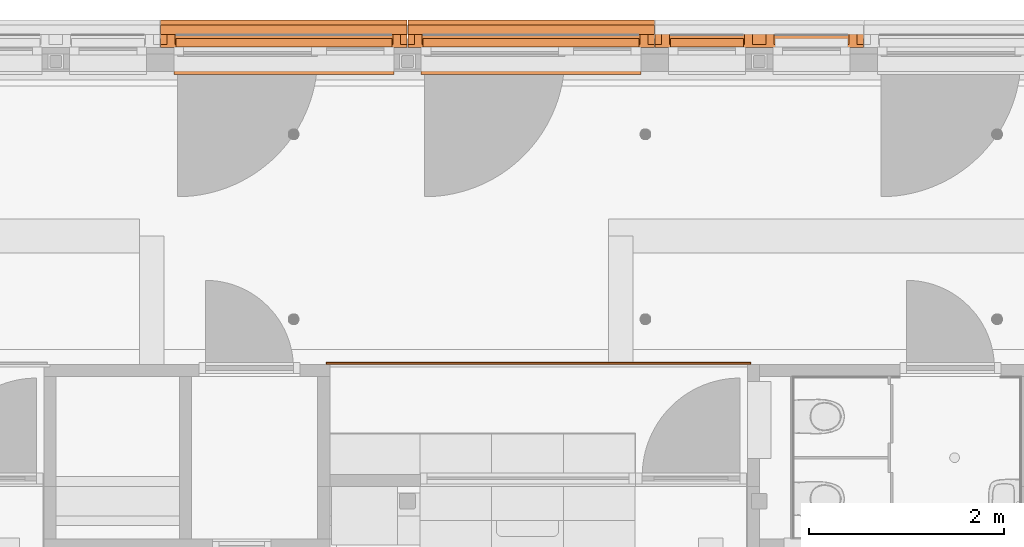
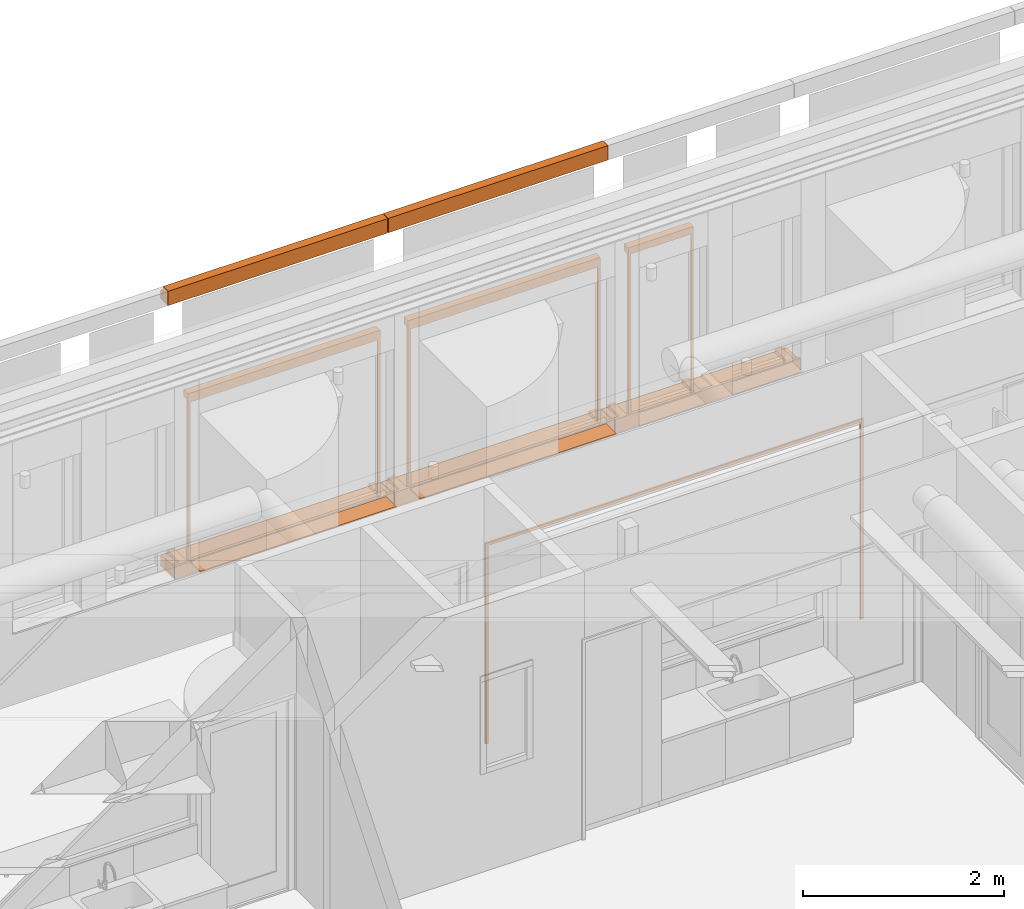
# One storey, part 117 of 128: 11 proxies.
"""IFC2X3 building model written with IfcOpenShell, lengths in millimetres."""

from ifc_helpers import new_model, entity, si_unit, converted_unit, derived_unit, direction, frame, frame_2d, origin, origin_2d_with_axis, place, context, subcontext, project, spatial, polyline, circle_curve, parameter, trimmed, segment, composite_curve, rectangle, outline, extrude, source, transform, mapped, material, material_list, type_object, type_shapes, element, save


model = new_model("IFC2X3")

# Units and contexts
model_context = context("Model", 3, precision=0.01, world=origin(), true_north=direction((6.123031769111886e-17, 1.0)))
body_context = subcontext(model_context, "Body", "Model", "MODEL_VIEW")
ifc_project = project(units=[si_unit("LENGTHUNIT", "METRE", prefix="MILLI"), si_unit("AREAUNIT", "SQUARE_METRE"), si_unit("VOLUMEUNIT", "CUBIC_METRE"), converted_unit("PLANEANGLEUNIT", "DEGREE", entity("IfcRatioMeasure", 0.017453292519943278), si_unit("PLANEANGLEUNIT", "RADIAN"), dimensions=[0, 0, 0, 0, 0, 0, 0]), si_unit("MASSUNIT", "GRAM", prefix="KILO"), derived_unit("MASSDENSITYUNIT", [(si_unit("MASSUNIT", "GRAM", prefix="KILO"), 1), (si_unit("LENGTHUNIT", "METRE"), -3)]), derived_unit("IONCONCENTRATIONUNIT", [(si_unit("MASSUNIT", "GRAM", prefix="KILO"), 1), (si_unit("LENGTHUNIT", "METRE"), -3)]), derived_unit("MOMENTOFINERTIAUNIT", [(si_unit("LENGTHUNIT", "METRE"), 4)]), si_unit("TIMEUNIT", "SECOND"), si_unit("FREQUENCYUNIT", "HERTZ"), si_unit("THERMODYNAMICTEMPERATUREUNIT", "DEGREE_CELSIUS"), derived_unit("THERMALTRANSMITTANCEUNIT", [(si_unit("MASSUNIT", "GRAM", prefix="KILO"), 1), (si_unit("THERMODYNAMICTEMPERATUREUNIT", "KELVIN"), -1), (si_unit("TIMEUNIT", "SECOND"), -3)]), derived_unit("THERMALCONDUCTANCEUNIT", [(si_unit("MASSUNIT", "GRAM", prefix="KILO"), 1), (si_unit("THERMODYNAMICTEMPERATUREUNIT", "KELVIN"), -1), (si_unit("TIMEUNIT", "SECOND"), -3), (si_unit("LENGTHUNIT", "METRE"), 1)]), derived_unit("VOLUMETRICFLOWRATEUNIT", [(si_unit("LENGTHUNIT", "METRE"), 3), (si_unit("TIMEUNIT", "SECOND"), -1)]), derived_unit("MASSFLOWRATEUNIT", [(si_unit("MASSUNIT", "GRAM", prefix="KILO"), 1), (si_unit("TIMEUNIT", "SECOND"), -1)]), derived_unit("ROTATIONALFREQUENCYUNIT", [(si_unit("TIMEUNIT", "SECOND"), -1)]), si_unit("ELECTRICCURRENTUNIT", "AMPERE"), si_unit("ELECTRICVOLTAGEUNIT", "VOLT"), si_unit("POWERUNIT", "WATT"), si_unit("FORCEUNIT", "NEWTON", prefix="KILO"), si_unit("ILLUMINANCEUNIT", "LUX"), si_unit("LUMINOUSFLUXUNIT", "LUMEN"), si_unit("LUMINOUSINTENSITYUNIT", "CANDELA"), derived_unit("USERDEFINED", [(si_unit("MASSUNIT", "GRAM", prefix="KILO"), -1), (si_unit("LENGTHUNIT", "METRE"), -2), (si_unit("TIMEUNIT", "SECOND"), 3), (si_unit("LUMINOUSFLUXUNIT", "LUMEN"), 1)]), derived_unit("USERDEFINED", [(si_unit("MASSUNIT", "GRAM", prefix="KILO"), 1), (si_unit("TIMEUNIT", "SECOND"), -3), (si_unit("LENGTHUNIT", "METRE"), 3), (si_unit("ELECTRICCURRENTUNIT", "AMPERE"), -2)]), derived_unit("SOUNDPOWERUNIT", [(si_unit("MASSUNIT", "GRAM", prefix="KILO"), 1), (si_unit("TIMEUNIT", "SECOND"), -3), (si_unit("LENGTHUNIT", "METRE"), 2)]), derived_unit("SOUNDPRESSUREUNIT", [(si_unit("MASSUNIT", "GRAM", prefix="KILO"), 1), (si_unit("LENGTHUNIT", "METRE"), -1), (si_unit("TIMEUNIT", "SECOND"), -2)]), derived_unit("LINEARVELOCITYUNIT", [(si_unit("LENGTHUNIT", "METRE"), 1), (si_unit("TIMEUNIT", "SECOND"), -1)]), si_unit("PRESSUREUNIT", "PASCAL"), derived_unit("USERDEFINED", [(si_unit("MASSUNIT", "GRAM", prefix="KILO"), 1), (si_unit("LENGTHUNIT", "METRE"), -2), (si_unit("TIMEUNIT", "SECOND"), -2)]), derived_unit("LINEARFORCEUNIT", [(si_unit("MASSUNIT", "GRAM", prefix="KILO"), 1), (si_unit("TIMEUNIT", "SECOND"), -2)]), derived_unit("PLANARFORCEUNIT", [(si_unit("MASSUNIT", "GRAM", prefix="KILO"), 1), (si_unit("LENGTHUNIT", "METRE"), -1), (si_unit("TIMEUNIT", "SECOND"), -2)]), derived_unit("SPECIFICHEATCAPACITYUNIT", [(si_unit("THERMODYNAMICTEMPERATUREUNIT", "KELVIN"), -1), (si_unit("LENGTHUNIT", "METRE"), 2), (si_unit("TIMEUNIT", "SECOND"), -2)]), derived_unit("HEATINGVALUEUNIT", [(si_unit("LENGTHUNIT", "METRE"), 2), (si_unit("TIMEUNIT", "SECOND"), -2)]), derived_unit("VAPORPERMEABILITYUNIT", [(si_unit("LENGTHUNIT", "METRE"), -1), (si_unit("TIMEUNIT", "SECOND"), 1)]), derived_unit("DYNAMICVISCOSITYUNIT", [(si_unit("MASSUNIT", "GRAM", prefix="KILO"), 1), (si_unit("TIMEUNIT", "SECOND"), -1), (si_unit("LENGTHUNIT", "METRE"), -1)]), derived_unit("THERMALEXPANSIONCOEFFICIENTUNIT", [(si_unit("THERMODYNAMICTEMPERATUREUNIT", "KELVIN"), -1)]), derived_unit("MODULUSOFELASTICITYUNIT", [(si_unit("MASSUNIT", "GRAM", prefix="KILO"), 1), (si_unit("LENGTHUNIT", "METRE"), -1), (si_unit("TIMEUNIT", "SECOND"), -2)]), derived_unit("ISOTHERMALMOISTURECAPACITYUNIT", [(si_unit("LENGTHUNIT", "METRE"), 3), (si_unit("MASSUNIT", "GRAM", prefix="KILO"), -1)]), derived_unit("MOISTUREDIFFUSIVITYUNIT", [(si_unit("TIMEUNIT", "SECOND"), -1), (si_unit("LENGTHUNIT", "METRE"), 2)])], contexts=[model_context])

# Site, building, storey
site_placement = place(None, frame((0.0, 300.0, 0.0)))
site = spatial("IfcSite", under=ifc_project, at=site_placement, Name="<Kadastrale nummers>", CompositionType="ELEMENT")
building_placement = place(site_placement, origin())
building = spatial("IfcBuilding", under=site, at=building_placement, CompositionType="ELEMENT")
storey_placement = place(building_placement, frame((0.0, 0.0, 3560.0000331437)))
storey = spatial("IfcBuildingStorey", under=building, at=storey_placement, Name="01 eerste verdieping", CompositionType="ELEMENT", Elevation=3560.0000331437)

# Proxies
ifc_material_1 = material(Name="ISR_Beton_prefab")
building_element_proxy_type_1 = type_object("IfcBuildingElementProxyType", Name="29_DAT_Prefab betonnen waterslag lang:22", PredefinedType="NOTDEFINED", material=ifc_material_1)
shared_shape_1 = source(origin(), body_context, "Body", "SweptSolid", [
    extrude(outline(polyline([(-16.052237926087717, -115.0), (26.113434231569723, -115.0), (5.9910416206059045, 115.0), (-16.052237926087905, 115.0), (-16.052237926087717, -115.0)])), frame((2377.0, 75.0, -16.05223792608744), z_axis=(1.0, 0.0, 0.0), x_axis=(0.0, 0.0, -1.0)), (0.0, 0.0, 1.0), 79.99999999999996),
    extrude(outline(polyline([(-16.052237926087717, -115.0), (26.113434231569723, -115.0), (5.9910416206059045, 115.0), (-16.052237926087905, 115.0), (-16.052237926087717, -115.0)])), frame((67.0, 75.0, -16.05223792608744), z_axis=(1.0, 0.0, 0.0), x_axis=(0.0, 0.0, -1.0)), (0.0, 0.0, 1.0), 80.00000000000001),
    extrude(outline(composite_curve([segment(polyline([(-140.0, -95.7340207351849), (-110.0, -95.7340207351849)]), True, "CONTINUOUS"), segment(polyline([(-110.0, -95.7340207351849), (-110.0, -73.7340207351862)]), True, "CONTINUOUS"), segment(polyline([(-110.0, -73.7340207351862), (140.0, -51.861854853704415)]), True, "CONTINUOUS"), segment(polyline([(140.0, -51.86185485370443), (140.0, 79.26597926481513)]), True, "CONTINUOUS"), segment(polyline([(140.0, 79.26597926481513), (115.0, 79.26597926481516)]), True, "CONTINUOUS"), segment(trimmed(circle_curve(frame_2d((110.0, 79.26597926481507), x_axis=(1.0, 0.0)), 5.000000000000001), [parameter(179.99999999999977)], [parameter(4.0711099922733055e-13)], True, "PARAMETER"), False, "CONTINUOUS"), segment(polyline([(105.0, 79.26597926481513), (-140.0, 79.26597926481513)]), True, "CONTINUOUS"), segment(polyline([(-140.0, 79.26597926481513), (-140.0, -95.7340207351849)]), True, "CONTINUOUS")], self_intersect=False)), frame((0.0, 80.0, -95.73402073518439), z_axis=(1.0, 0.0, 0.0), x_axis=(0.0, -1.0, 0.0)), (0.0, 0.0, 1.0), 2524.0000000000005),
])
type_shapes(building_element_proxy_type_1, [shared_shape_1])
for number, where, z_axis, x_axis, name in (
    (1, (23527.0, 50165.0, 890.0000018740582), (0.0, 0.0, 1.0), (-1.0, 0.0, 0.0), "29_DAT_Prefab betonnen waterslag lang:22"),
    (2, (20997.0, 50165.0, 890.0000018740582), (0.0, 0.0, 1.0), (-1.0, 0.0, 0.0), "29_DAT_Prefab betonnen waterslag lang:22"),
):
    element("IfcBuildingElementProxy", number, at=place(storey_placement, frame(where, z_axis=z_axis, x_axis=x_axis)), inside=storey, type_object=building_element_proxy_type_1, material=ifc_material_1, Name=name, ObjectType="29_DAT_Prefab betonnen waterslag lang:22", context=body_context, shape_type="MappedRepresentation", body=[
        mapped(shared_shape_1, transform((0.0, 0.0, 0.0), scale=1.0)),
    ])
ifc_material_2 = material(Name="STAAL_RAL 7006")
ifc_material_3 = material(Name="<Unnamed>")
ifc_material_list = material_list([ifc_material_2, ifc_material_3])
building_element_proxy_type_2 = type_object("IfcBuildingElementProxyType", Name="31_DAT_Screen_zonwering_bak85:31_DAT_Screen_zonwering_bak85", PredefinedType="NOTDEFINED", material=ifc_material_list)
shared_shape_2 = source(origin(), body_context, "Body", "SweptSolid", [
    extrude(outline(polyline([(-60.69864841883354, -53.573897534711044), (20.695945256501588, -53.573897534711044), (20.695945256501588, 1.1216926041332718), (22.501351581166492, 1.1216926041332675), (22.501351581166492, 24.626102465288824), (17.501351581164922, 24.626102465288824), (17.501351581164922, 27.826102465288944), (-60.69864841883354, 27.826102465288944), (-60.69864841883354, -53.573897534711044)])), frame((2208.0, -29.62610246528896, 2752.501351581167), z_axis=(1.0, 0.0, 0.0), x_axis=(0.0, 0.0, -1.0)), (0.0, 0.0, 1.0), 1.999999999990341),
    extrude(outline(polyline([(-55.83243227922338, -51.08259835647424), (29.167567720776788, -51.08259835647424), (29.167567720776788, 5.412991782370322), (27.362161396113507, 5.412991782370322), (27.362161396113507, -49.28259835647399), (-54.032432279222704, -49.28259835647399), (-54.032432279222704, 32.117401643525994), (24.16756772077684, 32.117401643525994), (24.16756772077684, 28.91740164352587), (29.167567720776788, 28.91740164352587), (29.167567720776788, 33.917401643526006), (-55.83243227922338, 33.917401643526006), (-55.83243227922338, -51.08259835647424)])), frame((0.0, -33.917401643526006, 2759.1675677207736), z_axis=(1.0, 0.0, 0.0), x_axis=(0.0, 0.0, -1.0)), (0.0, 0.0, 1.0), 2210.000000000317),
    extrude(outline(polyline([(-60.69864841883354, -53.573897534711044), (20.695945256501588, -53.573897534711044), (20.695945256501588, 1.1216926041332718), (22.501351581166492, 1.1216926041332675), (22.501351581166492, 24.626102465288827), (17.501351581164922, 24.626102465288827), (17.501351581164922, 27.826102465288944), (-60.69864841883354, 27.826102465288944), (-60.69864841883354, -53.573897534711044)])), frame((0.0, -29.62610246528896, 2752.501351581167), z_axis=(1.0, 0.0, 0.0), x_axis=(0.0, 0.0, -1.0)), (0.0, 0.0, 1.0), 1.999999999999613),
    extrude(rectangle(XDim=2170.0000000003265, YDim=1.163311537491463, at=frame_2d((1.1368683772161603e-13, -2.1094237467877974e-15), x_axis=(1.0, 0.0))), frame((1105.0, -20.037293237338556, 2723.857769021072)), (0.0, 0.0, 1.0), 6.142230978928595),
    extrude(outline(composite_curve([segment(polyline([(-7.502327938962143, -23.023758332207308), (7.497672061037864, -23.023758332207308)]), True, "CONTINUOUS"), segment(trimmed(circle_curve(frame_2d((7.497672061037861, -21.523758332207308), x_axis=(0.0, -1.0)), 1.4999999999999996), [parameter(359.99999999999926)], [parameter(90.00000000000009)], True, "PARAMETER"), True, "CONTINUOUS"), segment(polyline([(8.997672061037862, -21.523758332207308), (8.997672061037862, 8.976241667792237)]), True, "CONTINUOUS"), segment(trimmed(circle_curve(frame_2d((5.99767206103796, 8.976241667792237), x_axis=(0.0, -1.0)), 3.0), [parameter(90.00000000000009)], [parameter(172.84454900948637)], True, "PARAMETER"), True, "CONTINUOUS"), segment(polyline([(6.371357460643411, 11.952877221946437), (2.232090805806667, 12.470504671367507)]), True, "CONTINUOUS"), segment(trimmed(circle_curve(frame_2d((2.1399803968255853, 11.733933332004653), x_axis=(0.0, -1.0)), 0.7423083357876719), [parameter(172.87199730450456)], [parameter(323.5235343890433)], True, "PARAMETER"), True, "CONTINUOUS"), segment(trimmed(circle_curve(frame_2d((-0.0023279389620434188, 8.976241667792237), x_axis=(0.0, -1.0)), 2.75), [parameter(217.47327986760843)], [parameter(141.78969998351)], True, "PARAMETER"), False, "CONTINUOUS"), segment(trimmed(circle_curve(frame_2d((-2.144636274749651, 11.733933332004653), x_axis=(0.0, -1.0)), 0.7423083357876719), [parameter(39.207114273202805)], [parameter(187.12800269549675)], True, "PARAMETER"), True, "CONTINUOUS"), segment(polyline([(-2.2367466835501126, 12.470504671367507), (-6.376013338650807, 11.952877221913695)]), True, "CONTINUOUS"), segment(trimmed(circle_curve(frame_2d((-6.002327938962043, 8.976241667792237), x_axis=(0.0, -1.0)), 3.0), [parameter(187.1554509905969)], [parameter(269.9999999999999)], True, "PARAMETER"), True, "CONTINUOUS"), segment(polyline([(-9.002327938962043, 8.976241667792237), (-9.002327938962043, -21.523758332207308)]), True, "CONTINUOUS"), segment(trimmed(circle_curve(frame_2d((-7.502327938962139, -21.523758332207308), x_axis=(0.0, -1.0)), 1.5000000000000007), [parameter(269.9999999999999)], [parameter(359.9999999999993)], True, "PARAMETER"), True, "CONTINUOUS")], self_intersect=False)), frame((20.0, -19.997672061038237, 2716.8815273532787), z_axis=(1.0, 0.0, 0.0), x_axis=(0.0, 1.0, 0.0)), (0.0, 0.0, 1.0), 2170.0000000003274),
    extrude(outline(polyline([(-14.638298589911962, -16.231574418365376), (-13.138298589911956, -16.231574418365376), (-13.138298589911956, 12.23272922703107), (-6.116685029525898, 12.23272922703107), (-6.116685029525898, -6.231574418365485), (-1.1166850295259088, -6.231574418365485), (-1.1166850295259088, -4.769580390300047), (-4.579546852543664, -4.769580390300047), (-4.579546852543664, 12.23272922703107), (13.866111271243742, 12.23272922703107), (13.866111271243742, -4.769580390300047), (10.361701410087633, -4.769580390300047), (10.361701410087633, -6.2315744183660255), (15.36170141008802, -6.2315744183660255), (15.36170141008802, 13.768425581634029), (-14.638298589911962, 13.768425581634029), (-14.638298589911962, -16.231574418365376)])), frame((2196.231574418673, -14.638298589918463, 800.0), z_axis=(0.0, 0.0, 1.0), x_axis=(0.0, -1.0, 0.0)), (0.0, 0.0, 1.0), 1930.000000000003),
    extrude(outline(polyline([(-16.231574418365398, -14.638298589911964), (13.768425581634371, -14.638298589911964), (13.76842558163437, 15.361701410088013), (-6.231574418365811, 15.361701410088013), (-6.231574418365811, 10.361701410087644), (-4.769580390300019, 10.361701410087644), (-4.769580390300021, 13.866111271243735), (12.2327292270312, 13.866111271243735), (12.2327292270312, -4.57954685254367), (-4.769580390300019, -4.57954685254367), (-4.769580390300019, -1.1166850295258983), (-6.231574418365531, -1.1166850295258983), (-6.231574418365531, -6.116685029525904), (12.232729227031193, -6.116685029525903), (12.232729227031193, -13.138298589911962), (-16.231574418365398, -13.138298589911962), (-16.231574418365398, -14.638298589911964)])), frame((13.768425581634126, -14.638298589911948, 800.0), z_axis=(0.0, 0.0, 1.0), x_axis=(-1.0, 0.0, 0.0)), (0.0, 0.0, 1.0), 1930.0000000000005),
])
type_shapes(building_element_proxy_type_2, [shared_shape_2])
for number, where, z_axis, x_axis, name in (
    (3, (23370.0, 49951.0, 100.00000187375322), (0.0, 0.0, 1.0), (-1.0, 0.0, 0.0), "31_DAT_Screen_zonwering_bak85:31_DAT_Screen_zonwering_bak85"),
    (4, (20840.0, 49951.0, 100.00000187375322), (0.0, 0.0, 1.0), (-1.0, 0.0, 0.0), "31_DAT_Screen_zonwering_bak85:31_DAT_Screen_zonwering_bak85"),
):
    element("IfcBuildingElementProxy", number, at=place(storey_placement, frame(where, z_axis=z_axis, x_axis=x_axis)), inside=storey, type_object=building_element_proxy_type_2, material=ifc_material_list, Name=name, ObjectType="31_DAT_Screen_zonwering_bak85:31_DAT_Screen_zonwering_bak85", context=body_context, shape_type="MappedRepresentation", body=[
        mapped(shared_shape_2, transform((0.0, 0.0, 0.0), scale=1.0)),
    ])
building_element_proxy_type_3 = type_object("IfcBuildingElementProxyType", Name="29_DAT_Prefab betonband afgeschuind:29_DAT_Prefab betonband afgeschuind", PredefinedType="NOTDEFINED", material=ifc_material_1)
shared_shape_3 = source(origin(), body_context, "Body", "SweptSolid", [
    extrude(outline(polyline([(-94.16666666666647, -83.33333333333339), (80.83333333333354, -83.33333333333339), (80.83333333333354, 16.66666666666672), (18.33333333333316, 16.666666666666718), (8.333333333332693, 66.66666666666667), (-94.16666666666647, 66.66666666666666), (-94.16666666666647, -83.33333333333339)])), frame((0.0, 16.66666666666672, -18.33333333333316), z_axis=(1.0, 0.0, 0.0), x_axis=(0.0, 0.0, 1.0)), (0.0, 0.0, 1.0), 2524.0000000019),
])
type_shapes(building_element_proxy_type_3, [shared_shape_3])
for number, where, z_axis, x_axis, name in (
    (5, (23527.0, 50175.0, 4077.4999668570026), (0.0, 0.0, 1.0), (-1.0, 0.0, 0.0), "29_DAT_Prefab betonband afgeschuind:29_DAT_Prefab betonband afgeschuind"),
    (6, (20997.0, 50175.0, 4077.4999668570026), (0.0, 0.0, 1.0), (-1.0, 0.0, 0.0), "29_DAT_Prefab betonband afgeschuind:29_DAT_Prefab betonband afgeschuind"),
):
    element("IfcBuildingElementProxy", number, at=place(storey_placement, frame(where, z_axis=z_axis, x_axis=x_axis)), inside=storey, type_object=building_element_proxy_type_3, material=ifc_material_1, Name=name, ObjectType="29_DAT_Prefab betonband afgeschuind:29_DAT_Prefab betonband afgeschuind", context=body_context, shape_type="MappedRepresentation", body=[
        mapped(shared_shape_3, transform((0.0, 0.0, 0.0), scale=1.0)),
    ])
building_element_proxy_type_4 = type_object("IfcBuildingElementProxyType", Name="31_DAT_Screen_zonwering_bak85:31_DAT_Screen_zonwering_bak85", PredefinedType="NOTDEFINED", material=ifc_material_list)
shared_shape_4 = source(origin(), body_context, "Body", "SweptSolid", [
    extrude(outline(polyline([(-60.69864841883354, -53.573897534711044), (20.695945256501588, -53.573897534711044), (20.695945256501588, 1.1216926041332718), (22.501351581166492, 1.1216926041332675), (22.501351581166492, 24.626102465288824), (17.501351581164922, 24.626102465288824), (17.501351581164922, 27.826102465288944), (-60.69864841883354, 27.826102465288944), (-60.69864841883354, -53.573897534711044)])), frame((748.0, -29.62610246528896, 2752.501351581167), z_axis=(1.0, 0.0, 0.0), x_axis=(0.0, 0.0, -1.0)), (0.0, 0.0, 1.0), 1.9999999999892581),
    extrude(outline(polyline([(-55.83243227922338, -51.08259835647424), (29.167567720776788, -51.08259835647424), (29.167567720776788, 5.412991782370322), (27.362161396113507, 5.412991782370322), (27.362161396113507, -49.28259835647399), (-54.032432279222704, -49.28259835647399), (-54.032432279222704, 32.117401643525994), (24.16756772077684, 32.117401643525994), (24.16756772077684, 28.91740164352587), (29.167567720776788, 28.91740164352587), (29.167567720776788, 33.917401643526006), (-55.83243227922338, 33.917401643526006), (-55.83243227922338, -51.08259835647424)])), frame((0.0, -33.917401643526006, 2759.1675677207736), z_axis=(1.0, 0.0, 0.0), x_axis=(0.0, 0.0, -1.0)), (0.0, 0.0, 1.0), 749.9999999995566),
    extrude(outline(polyline([(-60.69864841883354, -53.573897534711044), (20.695945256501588, -53.573897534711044), (20.695945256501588, 1.1216926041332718), (22.501351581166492, 1.1216926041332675), (22.501351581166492, 24.626102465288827), (17.501351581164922, 24.626102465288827), (17.501351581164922, 27.826102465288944), (-60.69864841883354, 27.826102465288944), (-60.69864841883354, -53.573897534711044)])), frame((0.0, -29.62610246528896, 2752.501351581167), z_axis=(1.0, 0.0, 0.0), x_axis=(0.0, 0.0, -1.0)), (0.0, 0.0, 1.0), 1.999999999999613),
    extrude(rectangle(XDim=709.9999999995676, YDim=1.163311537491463, at=frame_2d((0.0, -2.1094237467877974e-15), x_axis=(1.0, 0.0))), frame((375.0, -20.037293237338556, 2730.0)), (0.0, 0.0, 1.0), 61.996041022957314),
    extrude(outline(composite_curve([segment(polyline([(-7.502327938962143, -23.023758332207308), (7.497672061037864, -23.023758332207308)]), True, "CONTINUOUS"), segment(trimmed(circle_curve(frame_2d((7.497672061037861, -21.523758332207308), x_axis=(0.0, -1.0)), 1.4999999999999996), [parameter(359.99999999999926)], [parameter(90.00000000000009)], True, "PARAMETER"), True, "CONTINUOUS"), segment(polyline([(8.997672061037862, -21.523758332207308), (8.997672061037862, 8.976241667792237)]), True, "CONTINUOUS"), segment(trimmed(circle_curve(frame_2d((5.99767206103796, 8.976241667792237), x_axis=(0.0, -1.0)), 3.0), [parameter(90.00000000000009)], [parameter(172.84454900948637)], True, "PARAMETER"), True, "CONTINUOUS"), segment(polyline([(6.371357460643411, 11.952877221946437), (2.232090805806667, 12.470504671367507)]), True, "CONTINUOUS"), segment(trimmed(circle_curve(frame_2d((2.1399803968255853, 11.733933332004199), x_axis=(0.0, -1.0)), 0.7423083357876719), [parameter(172.87199730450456)], [parameter(323.5235343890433)], True, "PARAMETER"), True, "CONTINUOUS"), segment(trimmed(circle_curve(frame_2d((-0.0023279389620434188, 8.976241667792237), x_axis=(0.0, -1.0)), 2.75), [parameter(217.47327986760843)], [parameter(141.78969998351)], True, "PARAMETER"), False, "CONTINUOUS"), segment(trimmed(circle_curve(frame_2d((-2.144636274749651, 11.733933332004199), x_axis=(0.0, -1.0)), 0.7423083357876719), [parameter(39.207114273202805)], [parameter(187.12800269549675)], True, "PARAMETER"), True, "CONTINUOUS"), segment(polyline([(-2.2367466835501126, 12.470504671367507), (-6.376013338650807, 11.95287722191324)]), True, "CONTINUOUS"), segment(trimmed(circle_curve(frame_2d((-6.002327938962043, 8.976241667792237), x_axis=(0.0, -1.0)), 3.0), [parameter(187.1554509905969)], [parameter(269.9999999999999)], True, "PARAMETER"), True, "CONTINUOUS"), segment(polyline([(-9.002327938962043, 8.976241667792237), (-9.002327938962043, -21.523758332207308)]), True, "CONTINUOUS"), segment(trimmed(circle_curve(frame_2d((-7.502327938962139, -21.523758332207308), x_axis=(0.0, -1.0)), 1.5000000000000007), [parameter(269.9999999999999)], [parameter(359.9999999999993)], True, "PARAMETER"), True, "CONTINUOUS")], self_intersect=False)), frame((20.0, -19.997672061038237, 2785.0197993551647), z_axis=(1.0, 0.0, 0.0), x_axis=(0.0, 1.0, 0.0)), (0.0, 0.0, 1.0), 709.9999999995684),
    extrude(outline(polyline([(-14.638298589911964, -16.231574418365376), (-13.138298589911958, -16.231574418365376), (-13.138298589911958, 12.232729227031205), (-6.116685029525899, 12.232729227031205), (-6.116685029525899, -6.231574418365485), (-1.116685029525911, -6.231574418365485), (-1.116685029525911, -4.769580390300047), (-4.579546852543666, -4.769580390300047), (-4.579546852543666, 12.23272922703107), (13.86611127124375, 12.23272922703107), (13.86611127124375, -4.769580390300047), (10.36170141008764, -4.769580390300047), (10.36170141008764, -6.2315744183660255), (15.36170141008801, -6.2315744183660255), (15.36170141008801, 13.768425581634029), (-14.638298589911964, 13.768425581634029), (-14.638298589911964, -16.231574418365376)])), frame((736.2315744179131, -14.638298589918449, 800.0), z_axis=(0.0, 0.0, 1.0), x_axis=(0.0, -1.0, 0.0)), (0.0, 0.0, 1.0), 1930.000000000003),
    extrude(outline(polyline([(-16.231574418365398, -14.638298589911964), (13.768425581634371, -14.638298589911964), (13.76842558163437, 15.361701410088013), (-6.231574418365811, 15.361701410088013), (-6.231574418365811, 10.361701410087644), (-4.769580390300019, 10.361701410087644), (-4.769580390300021, 13.866111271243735), (12.2327292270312, 13.866111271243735), (12.2327292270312, -4.57954685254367), (-4.769580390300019, -4.57954685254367), (-4.769580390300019, -1.1166850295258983), (-6.231574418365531, -1.1166850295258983), (-6.231574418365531, -6.116685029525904), (12.232729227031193, -6.116685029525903), (12.232729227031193, -13.138298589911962), (-16.231574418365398, -13.138298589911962), (-16.231574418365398, -14.638298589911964)])), frame((13.768425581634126, -14.638298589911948, 800.0), z_axis=(0.0, 0.0, 1.0), x_axis=(-1.0, 0.0, 0.0)), (0.0, 0.0, 1.0), 1930.0000000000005),
])
type_shapes(building_element_proxy_type_4, [shared_shape_4])
proxy_1_placement = place(storey_placement, frame((24440.0, 49951.0, 100.00000187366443), z_axis=(0.0, 0.0, 1.0), x_axis=(-1.0, 0.0, 0.0)))
element("IfcBuildingElementProxy", 7, at=proxy_1_placement, inside=storey, type_object=building_element_proxy_type_4, material=ifc_material_list, Name="31_DAT_Screen_zonwering_bak85:31_DAT_Screen_zonwering_bak85", ObjectType="31_DAT_Screen_zonwering_bak85:31_DAT_Screen_zonwering_bak85", context=body_context, shape_type="MappedRepresentation", body=[
    mapped(shared_shape_4, transform((0.0, 0.0, 0.0), scale=1.0)),
])

# Space
space_placement = place(storey_placement, origin())
space = spatial("IfcSpace", under=storey, at=space_placement, Name="1.11", CompositionType="ELEMENT", InteriorOrExteriorSpace="INTERNAL")

# Proxies
ifc_material_4 = material(Name="e1_natuursteen")
building_element_proxy_type_5 = type_object("IfcBuildingElementProxyType", Name="NLRS_31_GM_WPB_vensterbank natuursteen -SH_gen_ASN:200x18", PredefinedType="USERDEFINED", material=ifc_material_4)
shared_shape_5 = source(origin(), body_context, "Body", "SweptSolid", [
    extrude(rectangle(XDim=200.0, YDim=2250.000000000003, at=origin_2d_with_axis()), frame((0.0, -100.0, 0.0), z_axis=(0.0, 0.0, 1.0), x_axis=(0.0, -1.0, 0.0)), (0.0, 0.0, 1.0), 17.999999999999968),
])
type_shapes(building_element_proxy_type_5, [shared_shape_5])
for number, where, z_axis, x_axis, name in (
    (8, (22265.0, 49668.0, 920.0000018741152), (0.0, 0.0, 1.0), (-1.0, 0.0, 0.0), "NLRS_31_GM_WPB_vensterbank natuursteen -SH_gen_ASN:200x18"),
    (9, (19735.0, 49668.0, 920.0000018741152), (0.0, 0.0, 1.0), (-1.0, 0.0, 0.0), "NLRS_31_GM_WPB_vensterbank natuursteen -SH_gen_ASN:200x18"),
):
    element("IfcBuildingElementProxy", number, at=place(space_placement, frame(where, z_axis=z_axis, x_axis=x_axis)), inside=space, type_object=building_element_proxy_type_5, material=ifc_material_4, Name=name, ObjectType="NLRS_31_GM_WPB_vensterbank natuursteen -SH_gen_ASN:200x18", context=body_context, shape_type="MappedRepresentation", body=[
        mapped(shared_shape_5, transform((0.0, 0.0, 0.0), scale=1.0)),
    ])
ifc_material_5 = material(Name="ISR_HPL Kleur hout")
building_element_proxy_type_6 = type_object("IfcBuildingElementProxyType", Name="82_DAT_Trimlat om element:82_DAT_Trimlat om element", PredefinedType="NOTDEFINED", material=ifc_material_5)
shared_shape_6 = source(origin(), body_context, "Body", "SweptSolid", [
    extrude(rectangle(XDim=19.999999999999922, YDim=34.99999999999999, at=origin_2d_with_axis()), frame((-17.500000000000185, -10.0, 0.0), z_axis=(0.0, 0.0, 1.0), x_axis=(0.0, 1.0, 0.0)), (0.0, 0.0, 1.0), 2400.000000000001),
    extrude(rectangle(XDim=20.000000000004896, YDim=34.99999999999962, at=frame_2d((0.0, -5.400124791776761e-13), x_axis=(1.0, 0.0))), frame((4292.49999999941, -10.0, 0.0), z_axis=(0.0, 0.0, 1.0), x_axis=(0.0, 1.0, 0.0)), (0.0, 0.0, 1.0), 2400.000000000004),
    extrude(rectangle(XDim=19.99999999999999, YDim=4344.999999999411, at=frame_2d((0.0, -2.2737367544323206e-13), x_axis=(1.0, 0.0))), frame((2137.499999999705, -10.0, 2400.0), z_axis=(0.0, 0.0, 1.0), x_axis=(0.0, 1.0, 0.0)), (0.0, 0.0, 1.0), 34.99999999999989),
])
type_shapes(building_element_proxy_type_6, [shared_shape_6])
proxy_2_placement = place(space_placement, frame((24480.0, 46700.0, 90.00000187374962), z_axis=(0.0, 0.0, 1.0), x_axis=(-1.0, 0.0, 0.0)))
element("IfcBuildingElementProxy", 10, at=proxy_2_placement, inside=space, type_object=building_element_proxy_type_6, material=ifc_material_5, Name="82_DAT_Trimlat om element:82_DAT_Trimlat om element", ObjectType="82_DAT_Trimlat om element:82_DAT_Trimlat om element", context=body_context, shape_type="MappedRepresentation", body=[
    mapped(shared_shape_6, transform((0.0, 0.0, 0.0), scale=1.0)),
])
building_element_proxy_type_7 = type_object("IfcBuildingElementProxyType", Name="29_DAT_Prefab betonnen waterslag lang:29 dubbel 1", PredefinedType="NOTDEFINED", material=ifc_material_1)
shared_shape_7 = source(origin(), body_context, "Body", "SweptSolid", [
    extrude(outline(polyline([(-16.052237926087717, -115.0), (26.113434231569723, -115.0), (5.9910416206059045, 115.0), (-16.052237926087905, 115.0), (-16.052237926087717, -115.0)])), frame((1987.0, 75.0, -16.05223792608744), z_axis=(1.0, 0.0, 0.0), x_axis=(0.0, 0.0, -1.0)), (0.0, 0.0, 1.0), 79.99999999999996),
    extrude(outline(polyline([(-16.052237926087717, -115.0), (26.113434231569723, -115.0), (5.9910416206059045, 115.0), (-16.052237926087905, 115.0), (-16.052237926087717, -115.0)])), frame((1137.0, 75.0, -16.05223792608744), z_axis=(1.0, 0.0, 0.0), x_axis=(0.0, 0.0, -1.0)), (0.0, 0.0, 1.0), 79.99999999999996),
    extrude(outline(polyline([(-16.052237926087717, -115.0), (26.113434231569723, -115.0), (5.9910416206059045, 115.0), (-16.052237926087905, 115.0), (-16.052237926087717, -115.0)])), frame((917.0, 75.0, -16.05223792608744), z_axis=(1.0, 0.0, 0.0), x_axis=(0.0, 0.0, -1.0)), (0.0, 0.0, 1.0), 79.99999999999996),
    extrude(outline(polyline([(-16.052237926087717, -115.0), (26.113434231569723, -115.0), (5.9910416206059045, 115.0), (-16.052237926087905, 115.0), (-16.052237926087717, -115.0)])), frame((67.0, 75.0, -16.05223792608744), z_axis=(1.0, 0.0, 0.0), x_axis=(0.0, 0.0, -1.0)), (0.0, 0.0, 1.0), 80.00000000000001),
    extrude(outline(composite_curve([segment(polyline([(-140.0, -95.7340207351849), (-110.0, -95.7340207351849)]), True, "CONTINUOUS"), segment(polyline([(-110.0, -95.7340207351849), (-110.0, -73.7340207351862)]), True, "CONTINUOUS"), segment(polyline([(-110.0, -73.7340207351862), (140.0, -51.861854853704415)]), True, "CONTINUOUS"), segment(polyline([(140.0, -51.86185485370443), (140.0, 79.26597926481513)]), True, "CONTINUOUS"), segment(polyline([(140.0, 79.26597926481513), (115.0, 79.26597926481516)]), True, "CONTINUOUS"), segment(trimmed(circle_curve(frame_2d((110.0, 79.26597926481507), x_axis=(1.0, 0.0)), 5.000000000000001), [parameter(179.99999999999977)], [parameter(4.0711099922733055e-13)], True, "PARAMETER"), False, "CONTINUOUS"), segment(polyline([(105.0, 79.26597926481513), (-140.0, 79.26597926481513)]), True, "CONTINUOUS"), segment(polyline([(-140.0, 79.26597926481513), (-140.0, -95.7340207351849)]), True, "CONTINUOUS")], self_intersect=False)), frame((0.0, 80.0, -95.73402073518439), z_axis=(1.0, 0.0, 0.0), x_axis=(0.0, -1.0, 0.0)), (0.0, 0.0, 1.0), 2134.0000000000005),
])
type_shapes(building_element_proxy_type_7, [shared_shape_7])
proxy_3_placement = place(storey_placement, frame((25667.0, 50165.0, 890.0000018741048), z_axis=(0.0, 0.0, 1.0), x_axis=(-1.0, 0.0, 0.0)))
element("IfcBuildingElementProxy", 11, at=proxy_3_placement, inside=storey, type_object=building_element_proxy_type_7, material=ifc_material_1, Name="29_DAT_Prefab betonnen waterslag lang:29 dubbel 1", ObjectType="29_DAT_Prefab betonnen waterslag lang:29 dubbel 1", context=body_context, shape_type="MappedRepresentation", body=[
    mapped(shared_shape_7, transform((0.0, 0.0, 0.0), scale=1.0)),
])

save(model, "model.ifc")
